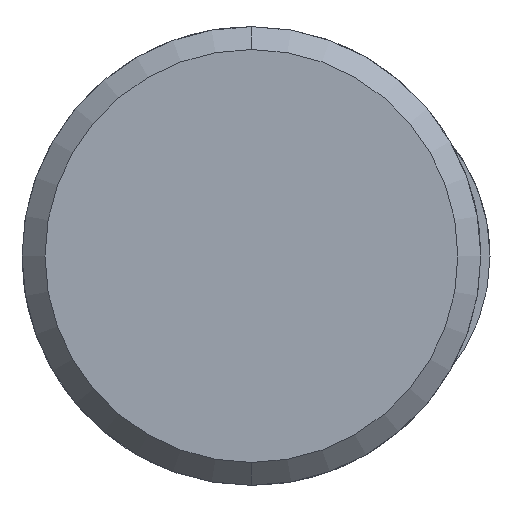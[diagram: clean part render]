
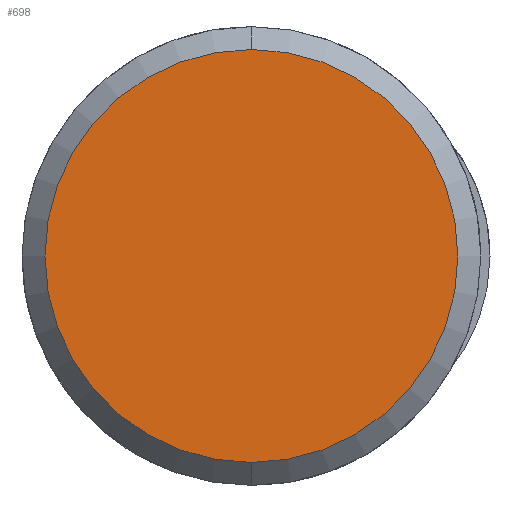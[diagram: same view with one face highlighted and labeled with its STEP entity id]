
A CAD part, left-side view. The second image highlights one B-rep face of the part: STEP entity #698.
In plain terms, the highlighted planar face has unit normal (-1, 0, 0).
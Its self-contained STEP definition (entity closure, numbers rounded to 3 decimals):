
#630=CARTESIAN_POINT('Vertex',(0.,0.,-22.5)) ;
#633=CARTESIAN_POINT('Axis2P3D Location',(0.,0.,0.)) ;
#637=CARTESIAN_POINT('Vertex',(0.,22.5,0.)) ;
#640=CARTESIAN_POINT('Axis2P3D Location',(0.,0.,0.)) ;
#644=CARTESIAN_POINT('Vertex',(0.,0.,22.5)) ;
#666=CARTESIAN_POINT('Axis2P3D Location',(0.,0.,0.)) ;
#670=CARTESIAN_POINT('Vertex',(0.,-22.5,0.)) ;
#673=CARTESIAN_POINT('Axis2P3D Location',(0.,0.,0.)) ;
#687=CARTESIAN_POINT('Axis2P3D Location',(0.,0.,0.)) ;
#634=DIRECTION('Axis2P3D Direction',(1.,0.,-0.)) ;
#641=DIRECTION('Axis2P3D Direction',(1.,0.,-0.)) ;
#667=DIRECTION('Axis2P3D Direction',(1.,0.,-0.)) ;
#674=DIRECTION('Axis2P3D Direction',(1.,0.,-0.)) ;
#688=DIRECTION('Axis2P3D Direction',(1.,0.,-0.)) ;
#689=DIRECTION('Axis2P3D XDirection',(-0.,0.,-1.)) ;
#635=AXIS2_PLACEMENT_3D('Circle Axis2P3D',#633,#634,$) ;
#642=AXIS2_PLACEMENT_3D('Circle Axis2P3D',#640,#641,$) ;
#668=AXIS2_PLACEMENT_3D('Circle Axis2P3D',#666,#667,$) ;
#675=AXIS2_PLACEMENT_3D('Circle Axis2P3D',#673,#674,$) ;
#690=AXIS2_PLACEMENT_3D('Plane Axis2P3D',#687,#688,#689) ;
#693=ORIENTED_EDGE('',*,*,#639,.F.) ;
#694=ORIENTED_EDGE('',*,*,#677,.F.) ;
#695=ORIENTED_EDGE('',*,*,#672,.F.) ;
#696=ORIENTED_EDGE('',*,*,#646,.F.) ;
#698=ADVANCED_FACE('395C-040-170/1',(#697),#691,.F.) ;
#636=CIRCLE('generated circle',#635,22.5) ;
#643=CIRCLE('generated circle',#642,22.5) ;
#669=CIRCLE('generated circle',#668,22.5) ;
#676=CIRCLE('generated circle',#675,22.5) ;
#639=EDGE_CURVE('',#631,#638,#636,.T.) ;
#646=EDGE_CURVE('',#638,#645,#643,.T.) ;
#672=EDGE_CURVE('',#645,#671,#669,.T.) ;
#677=EDGE_CURVE('',#671,#631,#676,.T.) ;
#692=EDGE_LOOP('',(#693,#694,#695,#696)) ;
#697=FACE_OUTER_BOUND('',#692,.T.) ;
#691=PLANE('Plane',#690) ;
#631=VERTEX_POINT('',#630) ;
#638=VERTEX_POINT('',#637) ;
#645=VERTEX_POINT('',#644) ;
#671=VERTEX_POINT('',#670) ;
